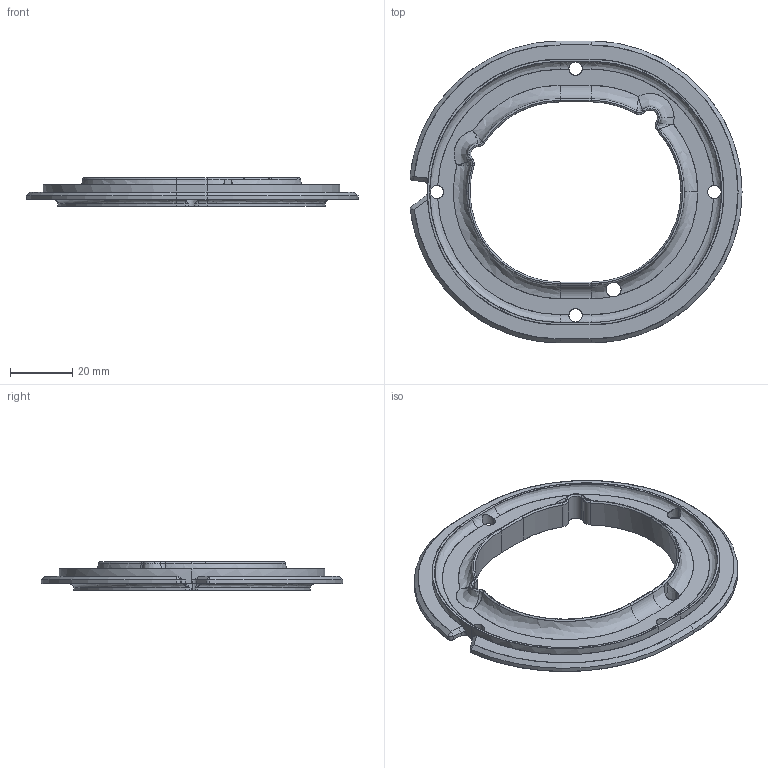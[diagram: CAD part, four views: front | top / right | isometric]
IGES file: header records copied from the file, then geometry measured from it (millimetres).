
Start section: SolidWorks IGES file using analytic representation for surfaces
Global section: file name: C:\Users\egger\OneDrive\MR SPEAKERS\PRODUCTION\T50RP HEADPHONES\OPEN ALPHA\OPEN ALPHA\IGES AND PARASOLIDS\ALPHA, PAD RING.IGS; native system: SolidWorks 2016; preprocessor: SolidWorks 2016; author: egger; date: 161118.063314; units: inch
Bounding box: 106.95 x 97.25 x 9.14 mm (x, y, z)
Surface area: 14691.5 mm2 (no closed solid volume)
Topology: 0 solids, 0 shells, 152 faces, 2164 edges, 2156 vertices
Faces by surface type: bspline 81, revolution 71
